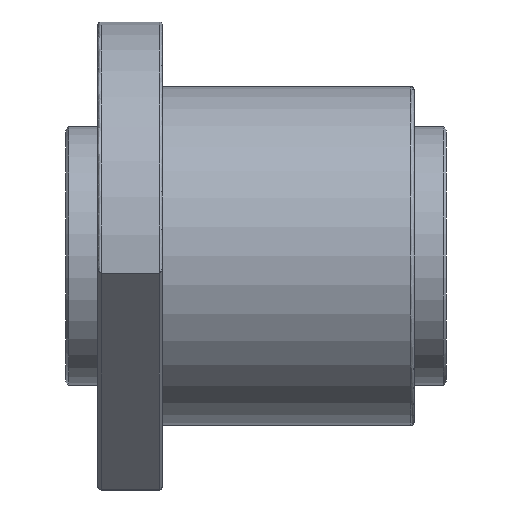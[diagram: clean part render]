
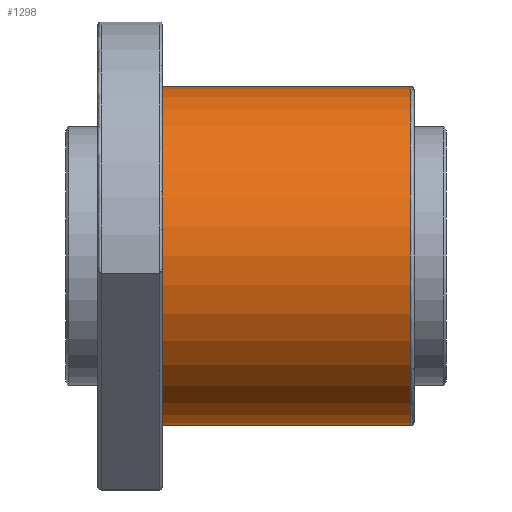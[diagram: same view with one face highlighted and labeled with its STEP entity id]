
A CAD part, front view. The second image highlights one B-rep face of the part: STEP entity #1298.
In plain terms, the highlighted cylindrical face has radius 52.5 mm (diameter 105 mm), a partial arc.
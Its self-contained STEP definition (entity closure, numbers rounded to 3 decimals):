
#14 = EDGE_CURVE ( 'NONE', #4962, #2169, #4563, .T. ) ;
#83 = CARTESIAN_POINT ( 'NONE',  ( 20., 0., 52.5 ) ) ;
#177 = EDGE_LOOP ( 'NONE', ( #1164, #3809, #5657, #1589 ) ) ;
#567 = CARTESIAN_POINT ( 'NONE',  ( 20., 0., -52.5 ) ) ;
#772 = CARTESIAN_POINT ( 'NONE',  ( 97., 0., 0. ) ) ;
#817 = LINE ( 'NONE', #2969, #5276 ) ;
#829 = AXIS2_PLACEMENT_3D ( 'NONE', #5771, #2664, #5792 ) ;
#1164 = ORIENTED_EDGE ( 'NONE', *, *, #14, .F. ) ;
#1237 = DIRECTION ( 'NONE',  ( 0., 0., 1. ) ) ;
#1298 = ADVANCED_FACE ( 'NONE', ( #3580 ), #5045, .T. ) ;
#1589 = ORIENTED_EDGE ( 'NONE', *, *, #5699, .T. ) ;
#1898 = CIRCLE ( 'NONE', #3214, 52.5 ) ;
#2169 = VERTEX_POINT ( 'NONE', #567 ) ;
#2664 = DIRECTION ( 'NONE',  ( -1., 0., 0. ) ) ;
#2969 = CARTESIAN_POINT ( 'NONE',  ( 98., 0., 52.5 ) ) ;
#3169 = EDGE_CURVE ( 'NONE', #4962, #5055, #4459, .T. ) ;
#3214 = AXIS2_PLACEMENT_3D ( 'NONE', #4119, #4519, #3678 ) ;
#3381 = DIRECTION ( 'NONE',  ( -1., 0., 0. ) ) ;
#3580 = FACE_OUTER_BOUND ( 'NONE', #177, .T. ) ;
#3663 = VERTEX_POINT ( 'NONE', #83 ) ;
#3678 = DIRECTION ( 'NONE',  ( 0., 0., 1. ) ) ;
#3738 = CARTESIAN_POINT ( 'NONE',  ( 97., 0., -52.5 ) ) ;
#3809 = ORIENTED_EDGE ( 'NONE', *, *, #3169, .T. ) ;
#3859 = CARTESIAN_POINT ( 'NONE',  ( 97., 0., 52.5 ) ) ;
#3882 = DIRECTION ( 'NONE',  ( -1., 0., 0. ) ) ;
#4119 = CARTESIAN_POINT ( 'NONE',  ( 20., 0., 0. ) ) ;
#4459 = CIRCLE ( 'NONE', #4989, 52.5 ) ;
#4519 = DIRECTION ( 'NONE',  ( 1., 0., 0. ) ) ;
#4563 = LINE ( 'NONE', #4675, #5120 ) ;
#4675 = CARTESIAN_POINT ( 'NONE',  ( 98., 0., -52.5 ) ) ;
#4962 = VERTEX_POINT ( 'NONE', #3738 ) ;
#4989 = AXIS2_PLACEMENT_3D ( 'NONE', #772, #3882, #1237 ) ;
#5045 = CYLINDRICAL_SURFACE ( 'NONE', #829, 52.5 ) ;
#5055 = VERTEX_POINT ( 'NONE', #3859 ) ;
#5120 = VECTOR ( 'NONE', #3381, 1000. ) ;
#5161 = DIRECTION ( 'NONE',  ( -1., 0., 0. ) ) ;
#5276 = VECTOR ( 'NONE', #5161, 1000. ) ;
#5381 = EDGE_CURVE ( 'NONE', #5055, #3663, #817, .T. ) ;
#5657 = ORIENTED_EDGE ( 'NONE', *, *, #5381, .T. ) ;
#5699 = EDGE_CURVE ( 'NONE', #3663, #2169, #1898, .T. ) ;
#5771 = CARTESIAN_POINT ( 'NONE',  ( 98., 0., 0. ) ) ;
#5792 = DIRECTION ( 'NONE',  ( 0., 0., 1. ) ) ;
